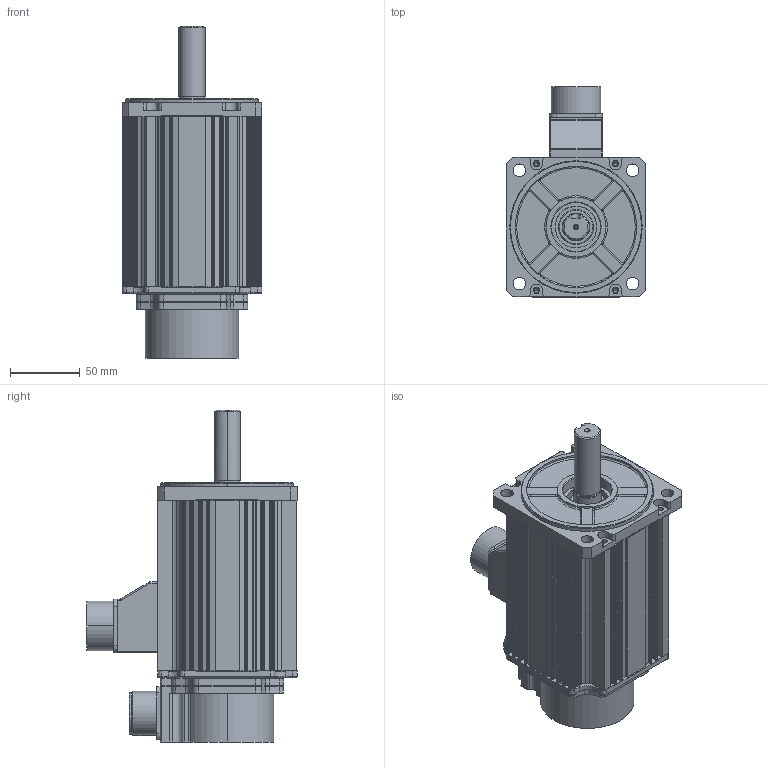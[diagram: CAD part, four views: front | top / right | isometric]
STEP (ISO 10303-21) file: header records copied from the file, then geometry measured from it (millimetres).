
FILE_DESCRIPTION (( 'STEP AP214' ), '1' );
FILE_NAME ('KANS-10D¡à1B2.STEP', '2026-09-12T00:51:11', ( '' ), ( '' ), 'SwSTEP 2.0', 'SolidWorks 2023', '' );
FILE_SCHEMA (( 'AUTOMOTIVE_DESIGN' ));
Length unit declared in the file: millimetre
Products named in the file (10): 10060024(ENCODER COVER ADAPTOR,□100,□120); 1006002202 ENCODER COVER; Ø19-KEY6X42; □100 BRACKET_BR; □100-122mm; MS3102A 20_표준; 10050579 CONNECTOR BOX_MS20; MS3102A 20-29P; KANS-10D□1B2; □100 FLANGE
Assembly tree (9 placements, depth 2):
  KANS-10D□1B2
    □100-122mm
    □100 FLANGE
    □100 BRACKET_BR
    10060024(ENCODER COVER ADAPTOR,□100,□120)
    1006002202 ENCODER COVER
    MS3102A 20-29P
    10050579 CONNECTOR BOX_MS20
    MS3102A 20_표준
    Ø19-KEY6X42
Bounding box: 100 x 150.55 x 238 mm (x, y, z)
Volume: 444195.3 mm3; surface area: 249085.6 mm2
Topology: 9 solids, 9 shells, 1787 faces, 4924 edges, 3182 vertices
Faces by surface type: plane 794, cylinder 788, torus 74, cone 64, bspline 35, sphere 32
Entity records: 58629 total; most frequent: CARTESIAN_POINT 11693, DIRECTION 10107, ORIENTED_EDGE 9728, EDGE_CURVE 4864, AXIS2_PLACEMENT_3D 3614, VERTEX_POINT 3174, LINE 2879, VECTOR 2879
